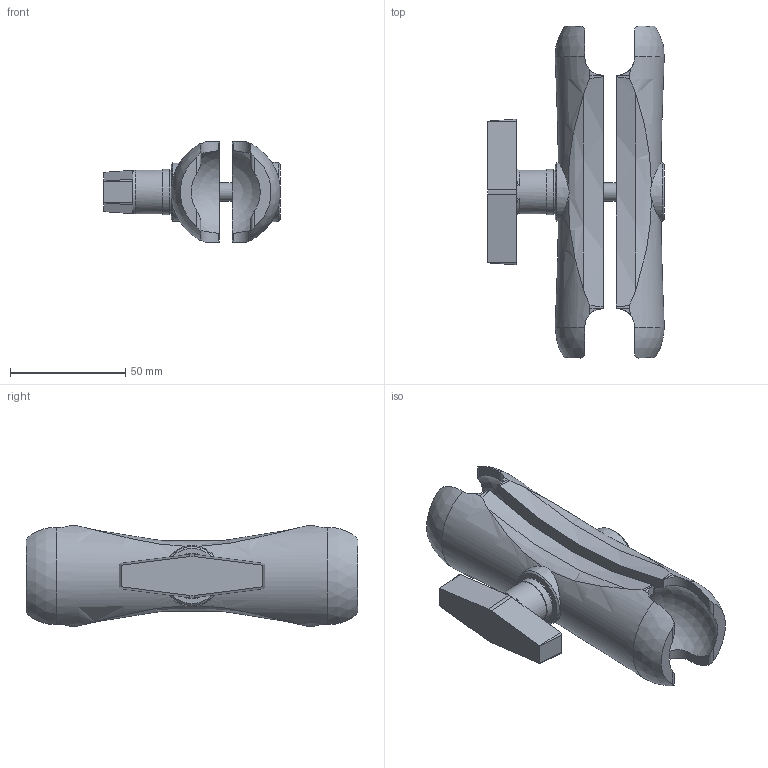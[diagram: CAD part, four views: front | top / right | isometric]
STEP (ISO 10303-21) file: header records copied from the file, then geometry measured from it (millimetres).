
FILE_DESCRIPTION( ( 'STEP AP203' ), '1' );
FILE_NAME( 'p:/temp/worker_235/temp/exporttempdir_4528_275_gtlw9/format_0/EC1412.stp', '2022-05-31T08:42:33', ( 'License CC BY-ND 4.0' ), ( 'CADENAS' ), ' ', 'PARTsolutions', ' ' );
FILE_SCHEMA( ( 'CONFIG_CONTROL_DESIGN' ) );
Length unit declared in the file: millimetre
Products named in the file (1): _EC1412
Bounding box: 76.76 x 144 x 43.43 mm (x, y, z)
Volume: 143222.7 mm3; surface area: 34696.8 mm2
Topology: 1 solids, 1 shells, 109 faces, 296 edges, 194 vertices
Faces by surface type: plane 49, cylinder 28, torus 12, sphere 12, cone 8
Full cylindrical faces by diameter (mm): 7.925 x1, 19.05 x2, 19.812 x1
Entity records: 4264 total; most frequent: CARTESIAN_POINT 1614, ORIENTED_EDGE 570, DIRECTION 506, EDGE_CURVE 285, AXIS2_PLACEMENT_3D 203, VERTEX_POINT 191, EDGE_LOOP 122, FACE_OUTER_BOUND 115
